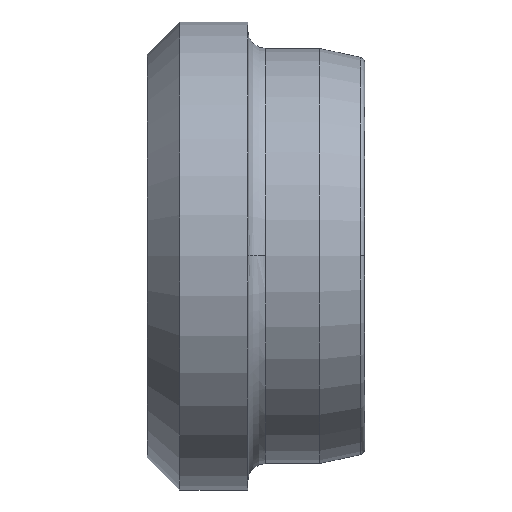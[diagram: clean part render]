
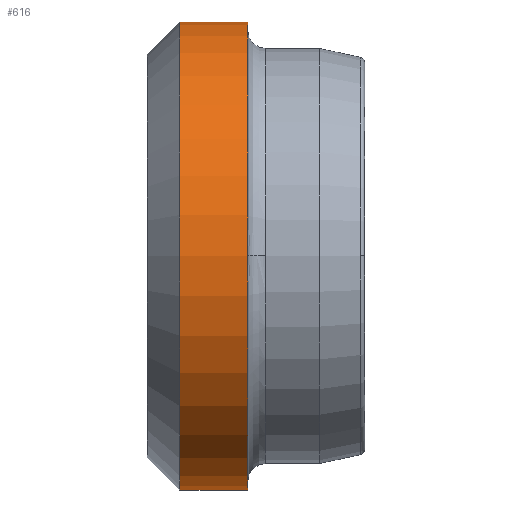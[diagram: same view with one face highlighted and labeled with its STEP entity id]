
A CAD part, top view. The second image highlights one B-rep face of the part: STEP entity #616.
In plain terms, the highlighted cylindrical face has radius 13 mm (diameter 26 mm), a partial arc.
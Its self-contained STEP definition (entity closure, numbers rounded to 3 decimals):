
#575=CARTESIAN_POINT('',(-4.537,-5.832,0.0));
#576=DIRECTION('',(1.0,0.0,0.0));
#577=DIRECTION('',(0.0,1.0,0.0));
#578=AXIS2_PLACEMENT_3D('',#575,#576,#577);
#579=CYLINDRICAL_SURFACE('',#578,13.0);
#580=CARTESIAN_POINT('',(-5.525,7.168,0.0));
#581=VERTEX_POINT('',#580);
#582=CARTESIAN_POINT('',(-1.75,7.168,0.0));
#583=VERTEX_POINT('',#582);
#584=CARTESIAN_POINT('',(-5.525,7.168,0.0));
#585=DIRECTION('',(1.0,0.0,0.0));
#586=VECTOR('',#585,3.775);
#587=LINE('',#584,#586);
#588=EDGE_CURVE('',#581,#583,#587,.T.);
#589=ORIENTED_EDGE('',*,*,#588,.F.);
#590=CARTESIAN_POINT('',(-5.525,-18.832,0.));
#591=VERTEX_POINT('',#590);
#592=CARTESIAN_POINT('',(-5.525,-5.832,0.0));
#593=DIRECTION('',(-1.0,0.0,0.0));
#594=DIRECTION('',(0.0,-1.0,0.0));
#595=AXIS2_PLACEMENT_3D('',#592,#593,#594);
#596=CIRCLE('',#595,13.0);
#597=EDGE_CURVE('',#591,#581,#596,.T.);
#598=ORIENTED_EDGE('',*,*,#597,.F.);
#599=CARTESIAN_POINT('',(-1.75,-18.832,0.));
#600=VERTEX_POINT('',#599);
#601=CARTESIAN_POINT('',(-1.75,-18.832,0.));
#602=DIRECTION('',(-1.0,0.0,0.0));
#603=VECTOR('',#602,3.775);
#604=LINE('',#601,#603);
#605=EDGE_CURVE('',#600,#591,#604,.T.);
#606=ORIENTED_EDGE('',*,*,#605,.F.);
#607=CARTESIAN_POINT('',(-1.75,-5.832,0.0));
#608=DIRECTION('',(1.0,0.0,0.0));
#609=DIRECTION('',(0.0,1.0,0.0));
#610=AXIS2_PLACEMENT_3D('',#607,#608,#609);
#611=CIRCLE('',#610,13.0);
#612=EDGE_CURVE('',#583,#600,#611,.T.);
#613=ORIENTED_EDGE('',*,*,#612,.F.);
#614=EDGE_LOOP('',(#589,#598,#606,#613));
#615=FACE_OUTER_BOUND('',#614,.T.);
#616=ADVANCED_FACE('',(#615),#579,.T.);
